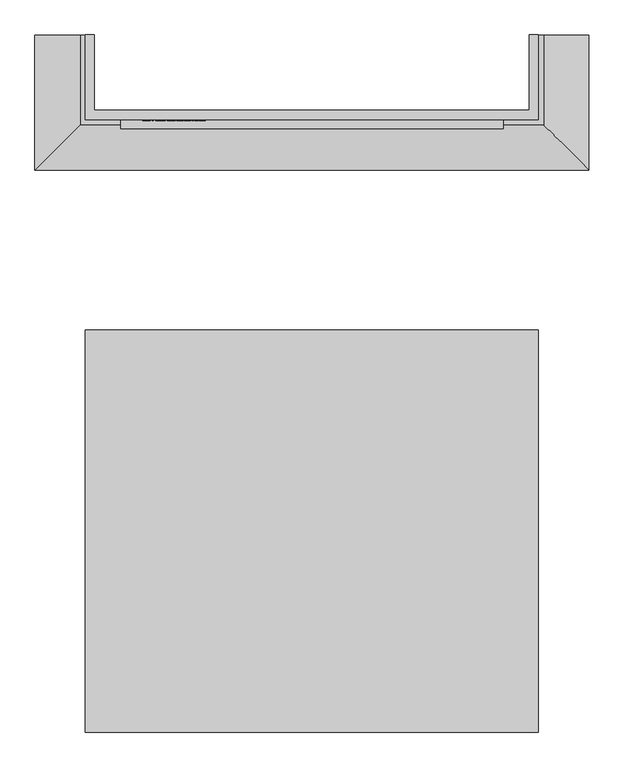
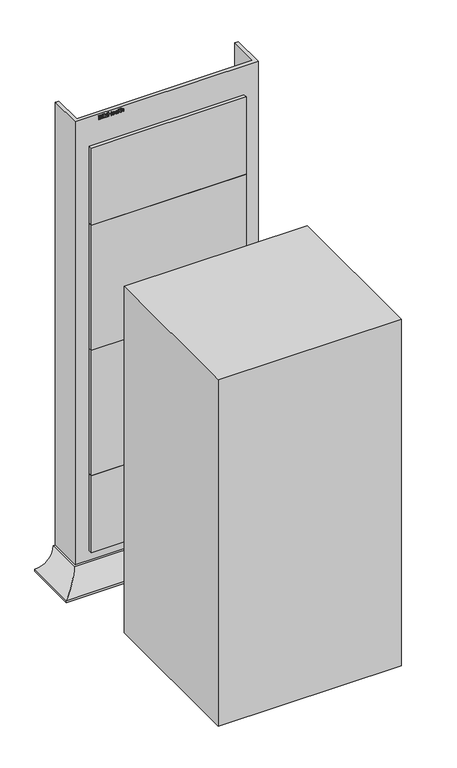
"""IFC4 building model written with IfcOpenShell, lengths in millimetres: furniture geometry, BIMHealth-Washstation-LOD2A-v1 : BIMHealth-Washstation-LOD2A-v1."""

from ifc_helpers import new_model, si_unit, frame, origin, origin_with_axes, place, context, project, spatial, polyline, circle_curve, ellipse_curve, outline, extrude, source, transform, mapped, element, save
from ifc_brep_helpers import plane_surface, revolved_surface, advanced_brep


def furniture_0702ecbf(model_context):
    return source(origin(), model_context, "Body", "SolidModel", [
        advanced_brep(
        [(-900.0, 0.0, 100.0), (-900.0, 0.0, 0.0), (-1000.0, 0.0, 0.0), (-1000.0, 0.0, 10.0), (-910.0, 0.0, 100.0), (-900.0, -168.0, 100.0), (-900.0, -168.0, 0.0), (0.0, -168.0, 0.0), (0.0, 0.0, 0.0), (100.0, 0.0, 0.0), (100.0, -268.0, 0.0), (-1000.0, -268.0, 0.0), (-1000.0, -268.0, 10.0), (-910.0, -178.0, 100.0), (10.0, -178.0, 100.0), (10.0, 0.0, 100.0), (0.0, 0.0, 100.0), (0.0, -168.0, 100.0), (100.0, -268.0, 10.0), (100.0, 0.0, 10.0)],
        [
            (0, 1),
            (1, 2),
            (2, 3),
            (3, 4, circle_curve(frame((-1000.0, 0.0, 100.0), z_axis=(0.0, -1.0, 0.0), x_axis=(-1.0, 0.0, 0.0)), 90.0)),
            (4, 0),
            (0, 5),
            (5, 6),
            (6, 1),
            (6, 7),
            (7, 8),
            (8, 9),
            (9, 10),
            (10, 11),
            (11, 2),
            (11, 12),
            (12, 3),
            (12, 13, ellipse_curve(frame((-1000.0, -268.0, 100.0), z_axis=(0.7071067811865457, -0.7071067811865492, 0.0), x_axis=(-0.7071067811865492, -0.7071067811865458, 0.0)), 127.2792206, 90.0)),
            (13, 4),
            (13, 14),
            (14, 15),
            (15, 16),
            (16, 17),
            (17, 5),
            (17, 7),
            (10, 18),
            (18, 12),
            (18, 14, ellipse_curve(frame((100.0, -268.0, 100.0), z_axis=(0.7071067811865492, 0.7071067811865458, 0.0), x_axis=(0.7071067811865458, -0.7071067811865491, 0.0)), 127.2792206, 90.0)),
            (15, 19, circle_curve(frame((100.0, 0.0, 100.0), z_axis=(0.0, -1.0, 0.0), x_axis=(1.0, 0.0, 0.0)), 90.0)),
            (19, 9),
            (8, 16),
            (19, 18),
        ],
        [
            plane_surface(frame((-900.0, 0.0, 0.0), z_axis=(0.0, 1.0, 0.0), x_axis=(0.0, 0.0, 1.0))),
            plane_surface(frame((-900.0, 0.0, 100.0), z_axis=(1.0, 0.0, 0.0), x_axis=(0.0, -1.0, 0.0))),
            plane_surface(frame((-900.0, 0.0, 0.0), z_axis=(0.0, 0.0, -1.0), x_axis=(0.0, -1.0, 0.0))),
            plane_surface(frame((-1000.0, 0.0, 0.0), z_axis=(-1.0, 0.0, 0.0), x_axis=(0.0, -1.0, 0.0))),
            revolved_surface(polyline([(-1090.0, -357.9999999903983, 100.0), (-1090.0, 0.0, 100.0)]), (-1000.0, 0.0, 100.0), (0.0, -1.0, 0.0)),
            plane_surface(frame((-910.0, 0.0, 100.0), z_axis=(0.0, 0.0, 1.0), x_axis=(0.0, -1.0, 0.0))),
            plane_surface(frame((-900.0, -168.0, 100.0), z_axis=(0.0, 1.0, 0.0), x_axis=(1.0, 0.0, 0.0))),
            plane_surface(frame((-1000.0, -268.0, 0.0), z_axis=(0.0, -1.0, 0.0), x_axis=(1.0, 0.0, 0.0))),
            revolved_surface(polyline([(189.99999999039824, -358.0, 100.0), (-1089.9999999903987, -358.0, 100.0)]), (-900.0, -268.0, 100.0), (1.0, 0.0, 0.0)),
            plane_surface(frame((0.0, 0.0, 0.0), z_axis=(0.0, 1.0, 0.0), x_axis=(0.0, 0.0, 1.0))),
            plane_surface(frame((0.0, -168.0, 100.0), z_axis=(-1.0, 0.0, 0.0), x_axis=(0.0, 1.0, 0.0))),
            plane_surface(frame((100.0, -268.0, 0.0), z_axis=(1.0, 0.0, 0.0), x_axis=(0.0, 1.0, 0.0))),
            revolved_surface(polyline([(190.0, 0.0, 100.0), (190.0, -357.9999999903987, 100.0)]), (100.0, -168.0, 100.0), (0.0, 1.0, 0.0)),
        ],
        [
            (0, [[1, 2, 3, 4, 5]]),
            (1, [[-1, 6, 7, 8]]),
            (2, [[-2, -8, 9, 10, 11, 12, 13, 14]]),
            (3, [[-3, -14, 15, 16]]),
            (4, [[-4, -16, 17, 18]]),
            (5, [[-5, -18, 19, 20, 21, 22, 23, -6]]),
            (6, [[-7, -23, 24, -9]]),
            (7, [[-15, -13, 25, 26]]),
            (8, [[-17, -26, 27, -19]]),
            (9, [[-21, 28, 29, -11, 30]]),
            (10, [[-24, -22, -30, -10]]),
            (11, [[-25, -12, -29, 31]]),
            (12, [[-27, -31, -28, -20]]),
        ],
    ),
        extrude(outline(polyline([(2373.0972535, -785.4733843), (2373.0972535, -778.0166535), (2373.4361958, -774.8604035), (2374.4361958, -772.7185766), (2376.3208112, -771.2834804), (2378.9674458, -770.7041535), (2382.0299458, -771.5527112), (2383.8664843, -773.978192), (2385.6092727, -771.9805958), (2387.9097535, -771.3195381), (2390.4289843, -772.1055958), (2392.2102343, -774.2786728), (2392.7895612, -777.9589612), (2392.7895612, -785.4733843), (2373.0972535, -785.4733843)]), holes=[polyline([(2384.7895612, -783.0118458), (2390.3280227, -783.0118458), (2390.3280227, -778.8579997), (2390.0708112, -775.6945381), (2389.121292, -774.2762689), (2387.5155227, -773.7810766), (2385.9121574, -774.3123266), (2385.0010997, -775.8916535), (2384.7895612, -778.5166535), (2384.7895612, -783.0118458)]), polyline([(2375.558792, -783.0118458), (2382.3280227, -783.0118458), (2382.3280227, -778.2041535), (2381.9986958, -775.1632881), (2380.8568689, -773.6368458), (2378.9434074, -773.165692), (2376.1910035, -774.5911728), (2375.6549458, -776.1368458), (2375.558792, -777.9637689), (2375.558792, -783.0118458)])]), frame((0.0, -170.0, 0.0), z_axis=(0.0, 1.0, 0.0), x_axis=(0.0, 0.0, 1.0)), (0.0, 0.0, 1.0), 2.0),
        extrude(outline(polyline([(-764.5503074, -170.0), (-767.0118458, -170.0), (-767.0118458, -168.0), (-764.5503074, -168.0), (-764.5503074, -170.0)])), frame((0.0, 0.0, 2373.0972535), z_axis=(0.0, 0.0, 1.0), x_axis=(1.0, 0.0, 0.0)), (0.0, 0.0, 1.0), 19.6923077),
        extrude(outline(polyline([(2373.0972535, -759.6272304), (2373.0972535, -757.165692), (2390.3280227, -757.165692), (2373.0972535, -752.2137689), (2373.0972535, -748.8820381), (2390.3280227, -743.9349228), (2373.0972535, -743.9349228), (2373.0972535, -741.4733843), (2392.7895612, -741.4733843), (2392.7895612, -745.7089612), (2379.1501381, -749.6704997), (2376.0107151, -750.5503074), (2378.9097535, -751.3676151), (2392.7895612, -755.4060766), (2392.7895612, -759.6272304), (2373.0972535, -759.6272304)])), frame((0.0, -170.0, 0.0), z_axis=(0.0, 1.0, 0.0), x_axis=(0.0, 0.0, 1.0)), (0.0, 0.0, 1.0), 2.0),
        extrude(outline(polyline([(2373.0972535, -737.165692), (2373.0972535, -734.7041535), (2382.3280227, -734.7041535), (2382.3280227, -724.2426151), (2373.0972535, -724.2426151), (2373.0972535, -721.7810766), (2392.7895612, -721.7810766), (2392.7895612, -724.2426151), (2384.7895612, -724.2426151), (2384.7895612, -734.7041535), (2392.7895612, -734.7041535), (2392.7895612, -737.165692), (2373.0972535, -737.165692)])), frame((0.0, -170.0, 0.0), z_axis=(0.0, 1.0, 0.0), x_axis=(0.0, 0.0, 1.0)), (0.0, 0.0, 1.0), 2.0),
        extrude(outline(polyline([(2377.4049458, -707.6560766), (2375.7655227, -709.2426151), (2375.2510997, -711.6560766), (2376.3616766, -714.8267497), (2379.558792, -716.2426151), (2380.2222535, -705.165692), (2385.8616766, -707.0334804), (2387.8664843, -711.8435766), (2385.8568689, -716.7954997), (2380.2078304, -718.7041535), (2374.7390804, -716.8147304), (2372.7895612, -711.7041535), (2373.9193689, -707.4998266), (2377.0972535, -705.2426151), (2377.4049458, -707.6560766)]), holes=[polyline([(2382.0203304, -716.2426151), (2384.4842727, -714.884442), (2385.4049458, -711.853192), (2384.2510997, -708.6128074), (2382.0203304, -707.6272304), (2382.0203304, -716.2426151)])]), frame((0.0, -170.0, 0.0), z_axis=(0.0, 1.0, 0.0), x_axis=(0.0, 0.0, 1.0)), (0.0, 0.0, 1.0), 2.0),
        extrude(outline(polyline([(2374.9434074, -693.4733843), (2373.0972535, -692.8579997), (2373.0972535, -690.3964612), (2375.1669651, -690.8868458), (2379.4434074, -691.0118458), (2382.5059074, -691.0118458), (2384.6597535, -691.1320381), (2386.3304266, -691.8868458), (2387.4289843, -693.571942), (2387.8664843, -696.5551151), (2387.371292, -699.8027112), (2385.9626381, -701.946942), (2383.558792, -703.0118458), (2383.2510997, -700.5503074), (2384.9313881, -699.3628074), (2385.4049458, -696.8724228), (2384.6934074, -694.1512689), (2382.3280227, -693.4878074), (2381.4818689, -697.7570381), (2381.1116766, -699.8868458), (2380.3039843, -701.6104035), (2378.8905227, -702.8483843), (2376.9434074, -703.3195381), (2373.9578304, -702.071942), (2372.7895612, -698.4974228), (2373.2751381, -695.8604035), (2374.9434074, -693.4733843)]), holes=[polyline([(2379.5179266, -693.4805958), (2377.2655227, -693.8772304), (2375.840042, -695.4829997), (2375.2510997, -697.9733843), (2378.7126381, -699.5623266), (2379.1116766, -697.4445381), (2379.5179266, -693.4805958)])]), frame((0.0, -170.0, 0.0), z_axis=(0.0, 1.0, 0.0), x_axis=(0.0, 0.0, 1.0)), (0.0, 0.0, 1.0), 2.0),
        extrude(outline(polyline([(-685.165692, -170.0), (-687.6272304, -170.0), (-687.6272304, -168.0), (-685.165692, -168.0), (-685.165692, -170.0)])), frame((0.0, 0.0, 2373.0972535), z_axis=(0.0, 0.0, 1.0), x_axis=(1.0, 0.0, 0.0)), (0.0, 0.0, 1.0), 19.6923077),
        extrude(outline(polyline([(2376.1429266, -677.4733843), (2385.0972535, -678.7041535), (2385.0972535, -676.2426151), (2387.558792, -676.2426151), (2387.558792, -678.7041535), (2392.5203304, -678.7041535), (2391.0732151, -681.165692), (2387.558792, -681.165692), (2387.558792, -683.0118458), (2385.0972535, -683.0118458), (2385.0972535, -681.165692), (2377.0635997, -681.165692), (2373.1982151, -679.8387689), (2372.7895612, -677.7762689), (2373.0251381, -675.9349228), (2376.1429266, -677.4733843)])), frame((0.0, -170.0, 0.0), z_axis=(0.0, 1.0, 0.0), x_axis=(0.0, 0.0, 1.0)), (0.0, 0.0, 1.0), 2.0),
        extrude(outline(polyline([(2373.0972535, -673.7810766), (2373.0972535, -671.3195381), (2380.7799458, -671.3195381), (2383.371292, -670.9180958), (2384.8568689, -669.571942), (2385.4049458, -667.5551151), (2384.5924458, -665.3339612), (2381.996292, -664.5503074), (2373.0972535, -664.5503074), (2373.0972535, -662.0887689), (2382.2510997, -662.0887689), (2385.4866766, -662.5935766), (2387.2342727, -664.2714612), (2387.8664843, -667.0358843), (2385.5491766, -671.3195381), (2392.7895612, -671.3195381), (2392.7895612, -673.7810766), (2373.0972535, -673.7810766)])), frame((0.0, -170.0, 0.0), z_axis=(0.0, 1.0, 0.0), x_axis=(0.0, 0.0, 1.0)), (0.0, 0.0, 1.0), 2.0),
        extrude(outline(polyline([(-70.0, -168.0), (-70.0, -186.0), (-830.0, -186.0), (-830.0, -168.0), (-70.0, -168.0)])), frame((0.0, 0.0, 1850.0), z_axis=(0.0, 0.0, 1.0), x_axis=(1.0, 0.0, 0.0)), (0.0, 0.0, 1.0), 400.0),
        extrude(outline(polyline([(-70.0, -168.0), (-70.0, -186.0), (-830.0, -186.0), (-830.0, -168.0), (-70.0, -168.0)])), frame((0.0, 0.0, 1200.0), z_axis=(0.0, 0.0, 1.0), x_axis=(1.0, 0.0, 0.0)), (0.0, 0.0, 1.0), 650.0),
        extrude(outline(polyline([(-70.0, -168.0), (-70.0, -186.0), (-830.0, -186.0), (-830.0, -168.0), (-70.0, -168.0)])), frame((0.0, 0.0, 550.0), z_axis=(0.0, 0.0, 1.0), x_axis=(1.0, 0.0, 0.0)), (0.0, 0.0, 1.0), 650.0),
        extrude(outline(polyline([(-70.0, -168.0), (-70.0, -186.0), (-830.0, -186.0), (-830.0, -168.0), (-70.0, -168.0)])), frame((0.0, 0.0, 150.0), z_axis=(0.0, 0.0, 1.0), x_axis=(1.0, 0.0, 0.0)), (0.0, 0.0, 1.0), 400.0),
        extrude(outline(polyline([(-900.0, -168.0), (-900.0, 0.0), (-882.0, 0.0), (-882.0, -150.0), (-18.0, -150.0), (-18.0, 0.0), (0.0, 0.0), (0.0, -168.0), (-900.0, -168.0)])), origin_with_axes(), (0.0, 0.0, 1.0), 2400.0),
        extrude(outline(polyline([(0.0, -586.0), (0.0, -1386.0), (-900.0, -1386.0), (-900.0, -586.0), (0.0, -586.0)])), origin_with_axes(), (0.0, 0.0, 1.0), 1800.0),
        extrude(outline(polyline([(-750.0, -1186.0), (-750.0, -586.0), (-150.0, -586.0), (-150.0, -1186.0), (-750.0, -1186.0)])), origin_with_axes(), (0.0, 0.0, 1.0), 600.0),
    ])


if __name__ == "__main__":
    model = new_model("IFC4")
    model_context = context("Model", 3, world=origin())
    ifc_project = project(units=[si_unit("LENGTHUNIT", "METRE", prefix="MILLI")], contexts=[model_context])
    site = spatial("IfcSite", under=ifc_project)
    building = spatial("IfcBuilding", under=site)
    placement = place(None, origin())
    furniture_shape = furniture_0702ecbf(model_context)
    element("IfcFurniture", 1, ObjectType="BIMHealth-Washstation-LOD2A-v1 : BIMHealth-Washstation-LOD2A-v1", at=placement, inside=building, context=model_context, shape_type="MappedRepresentation", body=[
        mapped(furniture_shape, transform((0.0, 0.0, 0.0), x_axis=(1.0, 0.0, 0.0), y_axis=(0.0, 1.0, 0.0), z_axis=(0.0, 0.0, 1.0))),
    ])
    save(model, "model.ifc")
